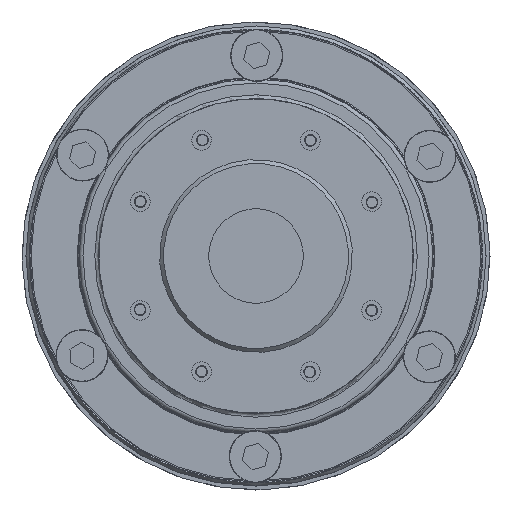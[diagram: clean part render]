
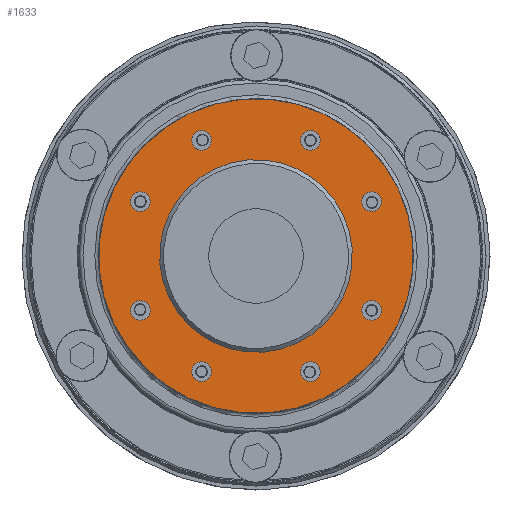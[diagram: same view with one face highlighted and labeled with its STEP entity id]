
A CAD part, left-side view. The second image highlights one B-rep face of the part: STEP entity #1633.
In plain terms, the highlighted planar face has unit normal (-1, 0, 0) as drawn and (0, -1, 0) by its records, which use the part's own axes.
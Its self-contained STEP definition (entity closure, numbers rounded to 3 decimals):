
#1633 = ADVANCED_FACE( '', ( #3021, #3022, #3023, #3024, #3025, #3026, #3027, #3028, #3029, #3030 ), #3031, .F. );
#3021 = FACE_OUTER_BOUND( '', #4140, .T. );
#3022 = FACE_BOUND( '', #4141, .T. );
#3023 = FACE_BOUND( '', #4142, .T. );
#3024 = FACE_BOUND( '', #4143, .T. );
#3025 = FACE_BOUND( '', #4144, .T. );
#3026 = FACE_BOUND( '', #4145, .T. );
#3027 = FACE_BOUND( '', #4146, .T. );
#3028 = FACE_BOUND( '', #4147, .T. );
#3029 = FACE_BOUND( '', #4148, .T. );
#3030 = FACE_BOUND( '', #4149, .T. );
#3031 = PLANE( '', #4150 );
#4140 = EDGE_LOOP( '', ( #6548 ) );
#4141 = EDGE_LOOP( '', ( #6549 ) );
#4142 = EDGE_LOOP( '', ( #6550 ) );
#4143 = EDGE_LOOP( '', ( #6551 ) );
#4144 = EDGE_LOOP( '', ( #6552 ) );
#4145 = EDGE_LOOP( '', ( #6553 ) );
#4146 = EDGE_LOOP( '', ( #6554 ) );
#4147 = EDGE_LOOP( '', ( #6555 ) );
#4148 = EDGE_LOOP( '', ( #6556 ) );
#4149 = EDGE_LOOP( '', ( #6557 ) );
#4150 = AXIS2_PLACEMENT_3D( '', #6558, #6559, #6560 );
#6548 = ORIENTED_EDGE( '', *, *, #7989, .T. );
#6549 = ORIENTED_EDGE( '', *, *, #7994, .F. );
#6550 = ORIENTED_EDGE( '', *, *, #7995, .F. );
#6551 = ORIENTED_EDGE( '', *, *, #7992, .F. );
#6552 = ORIENTED_EDGE( '', *, *, #7996, .F. );
#6553 = ORIENTED_EDGE( '', *, *, #7990, .F. );
#6554 = ORIENTED_EDGE( '', *, *, #7997, .F. );
#6555 = ORIENTED_EDGE( '', *, *, #7998, .F. );
#6556 = ORIENTED_EDGE( '', *, *, #7999, .F. );
#6557 = ORIENTED_EDGE( '', *, *, #8000, .F. );
#6558 = CARTESIAN_POINT( '', ( 0., 0., 40. ) );
#6559 = DIRECTION( '', ( 0., 1., 0. ) );
#6560 = DIRECTION( '', ( 1., 0., 0. ) );
#7989 = EDGE_CURVE( '', #9289, #9289, #9290, .T. );
#7990 = EDGE_CURVE( '', #9291, #9291, #9292, .T. );
#7992 = EDGE_CURVE( '', #9295, #9295, #9296, .T. );
#7994 = EDGE_CURVE( '', #9299, #9299, #9300, .T. );
#7995 = EDGE_CURVE( '', #9301, #9301, #9302, .T. );
#7996 = EDGE_CURVE( '', #9303, #9303, #9304, .T. );
#7997 = EDGE_CURVE( '', #9305, #9305, #9306, .T. );
#7998 = EDGE_CURVE( '', #9307, #9307, #9308, .T. );
#7999 = EDGE_CURVE( '', #9309, #9309, #9310, .T. );
#8000 = EDGE_CURVE( '', #9311, #9311, #9312, .T. );
#9289 = VERTEX_POINT( '', #11027 );
#9290 = CIRCLE( '', #11028, 40. );
#9291 = VERTEX_POINT( '', #11029 );
#9292 = CIRCLE( '', #11030, 2.5 );
#9295 = VERTEX_POINT( '', #11033 );
#9296 = CIRCLE( '', #11034, 2.5 );
#9299 = VERTEX_POINT( '', #11037 );
#9300 = CIRCLE( '', #11038, 2.5 );
#9301 = VERTEX_POINT( '', #11039 );
#9302 = CIRCLE( '', #11040, 2.5 );
#9303 = VERTEX_POINT( '', #11041 );
#9304 = CIRCLE( '', #11042, 2.5 );
#9305 = VERTEX_POINT( '', #11043 );
#9306 = CIRCLE( '', #11044, 2.5 );
#9307 = VERTEX_POINT( '', #11045 );
#9308 = CIRCLE( '', #11046, 2.5 );
#9309 = VERTEX_POINT( '', #11047 );
#9310 = CIRCLE( '', #11048, 2.5 );
#9311 = VERTEX_POINT( '', #11049 );
#9312 = CIRCLE( '', #11050, 24.5 );
#11027 = CARTESIAN_POINT( '', ( 0., 0., -40. ) );
#11028 = AXIS2_PLACEMENT_3D( '', #12516, #12517, #12518 );
#11029 = CARTESIAN_POINT( '', ( 25.054, 0., -23.202 ) );
#11030 = AXIS2_PLACEMENT_3D( '', #12519, #12520, #12521 );
#11033 = CARTESIAN_POINT( '', ( -23.202, 0., -25.054 ) );
#11034 = AXIS2_PLACEMENT_3D( '', #12525, #12526, #12527 );
#11037 = CARTESIAN_POINT( '', ( -25.054, 0., 23.202 ) );
#11038 = AXIS2_PLACEMENT_3D( '', #12531, #12532, #12533 );
#11039 = CARTESIAN_POINT( '', ( -32.5, 0., 2.5 ) );
#11040 = AXIS2_PLACEMENT_3D( '', #12534, #12535, #12536 );
#11041 = CARTESIAN_POINT( '', ( -2.5, 0., -32.5 ) );
#11042 = AXIS2_PLACEMENT_3D( '', #12537, #12538, #12539 );
#11043 = CARTESIAN_POINT( '', ( 32.5, 0., -2.5 ) );
#11044 = AXIS2_PLACEMENT_3D( '', #12540, #12541, #12542 );
#11045 = CARTESIAN_POINT( '', ( 23.202, 0., 25.054 ) );
#11046 = AXIS2_PLACEMENT_3D( '', #12543, #12544, #12545 );
#11047 = CARTESIAN_POINT( '', ( 2.5, 0., 32.5 ) );
#11048 = AXIS2_PLACEMENT_3D( '', #12546, #12547, #12548 );
#11049 = CARTESIAN_POINT( '', ( 0., 0., -24.5 ) );
#11050 = AXIS2_PLACEMENT_3D( '', #12549, #12550, #12551 );
#12516 = CARTESIAN_POINT( '', ( 0., 0., 0. ) );
#12517 = DIRECTION( '', ( 0., -1., 0. ) );
#12518 = DIRECTION( '', ( 0., 0., -1. ) );
#12519 = CARTESIAN_POINT( '', ( 25.054, 0., -20.702 ) );
#12520 = DIRECTION( '', ( 0., -1., 0. ) );
#12521 = DIRECTION( '', ( 0., 0., -1. ) );
#12525 = CARTESIAN_POINT( '', ( -20.702, 0., -25.054 ) );
#12526 = DIRECTION( '', ( 0., -1., 0. ) );
#12527 = DIRECTION( '', ( -1., 0., 0. ) );
#12531 = CARTESIAN_POINT( '', ( -25.054, 0., 20.702 ) );
#12532 = DIRECTION( '', ( 0., -1., 0. ) );
#12533 = DIRECTION( '', ( 0., 0., 1. ) );
#12534 = CARTESIAN_POINT( '', ( -32.5, 0., 0. ) );
#12535 = DIRECTION( '', ( 0., -1., 0. ) );
#12536 = DIRECTION( '', ( 0., 0., 1. ) );
#12537 = CARTESIAN_POINT( '', ( 0., 0., -32.5 ) );
#12538 = DIRECTION( '', ( 0., -1., 0. ) );
#12539 = DIRECTION( '', ( -1., 0., 0. ) );
#12540 = CARTESIAN_POINT( '', ( 32.5, 0., 0. ) );
#12541 = DIRECTION( '', ( 0., -1., 0. ) );
#12542 = DIRECTION( '', ( 0., 0., -1. ) );
#12543 = CARTESIAN_POINT( '', ( 20.702, 0., 25.054 ) );
#12544 = DIRECTION( '', ( 0., -1., 0. ) );
#12545 = DIRECTION( '', ( 1., 0., 0. ) );
#12546 = CARTESIAN_POINT( '', ( 0., 0., 32.5 ) );
#12547 = DIRECTION( '', ( 0., -1., 0. ) );
#12548 = DIRECTION( '', ( 1., 0., 0. ) );
#12549 = CARTESIAN_POINT( '', ( 0., 0., 0. ) );
#12550 = DIRECTION( '', ( 0., -1., 0. ) );
#12551 = DIRECTION( '', ( 0., 0., -1. ) );
